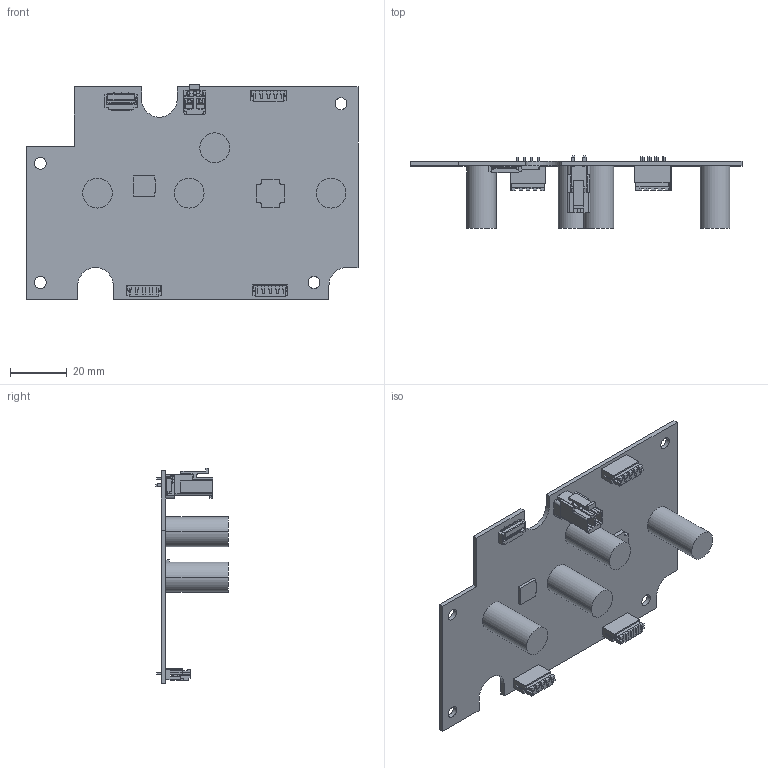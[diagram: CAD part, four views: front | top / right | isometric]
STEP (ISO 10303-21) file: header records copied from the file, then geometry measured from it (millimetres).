
FILE_DESCRIPTION((''),'2;1');
FILE_NAME('AMP_BOARD_SWAN_ASSY_ASM','2020-08-21T',('G6003023'),(''),'PRO/ENGINEER BY PARAMETRIC TECHNOLOGY CORPORATION, 2013150','PRO/ENGINEER BY PARAMETRIC TECHNOLOGY CORPORATION, 2013150','');
FILE_SCHEMA(('CONFIG_CONTROL_DESIGN'));
Length unit declared in the file: millimetre
Products named in the file (10): AMP_BOARD_SWAN; B4B-EH-A; 86514-02XX_REV-1; C-D10_5-5-H22; TQFP-48DSH; SSOP-24ESH; S-51282-002HXXX-XXX; FH41-15S-0_5SH; EHR-4; AMP_BOARD_SWAN_ASSY_ASM
Assembly tree (16 placements, depth 2):
  AMP_BOARD_SWAN_ASSY_ASM
    AMP_BOARD_SWAN
    B4B-EH-A  x3
    86514-02XX_REV-1
    C-D10_5-5-H22  x4
    TQFP-48DSH
    SSOP-24ESH
    S-51282-002HXXX-XXX
    FH41-15S-0_5SH
    EHR-4  x3
Bounding box: 117 x 25.6 x 75.8 mm (x, y, z)
Volume: 22369.2 mm3; surface area: 24722.1 mm2
Topology: 16 solids, 16 shells, 1157 faces, 3246 edges, 2154 vertices
Faces by surface type: plane 1000, cylinder 154, extrusion 3
Entity records: 27235 total; most frequent: CARTESIAN_POINT 4839, ORIENTED_EDGE 4752, DIRECTION 4373, EDGE_CURVE 2376, VECTOR 2077, LINE 2074, VERTEX_POINT 1574, AXIS2_PLACEMENT_3D 1148
